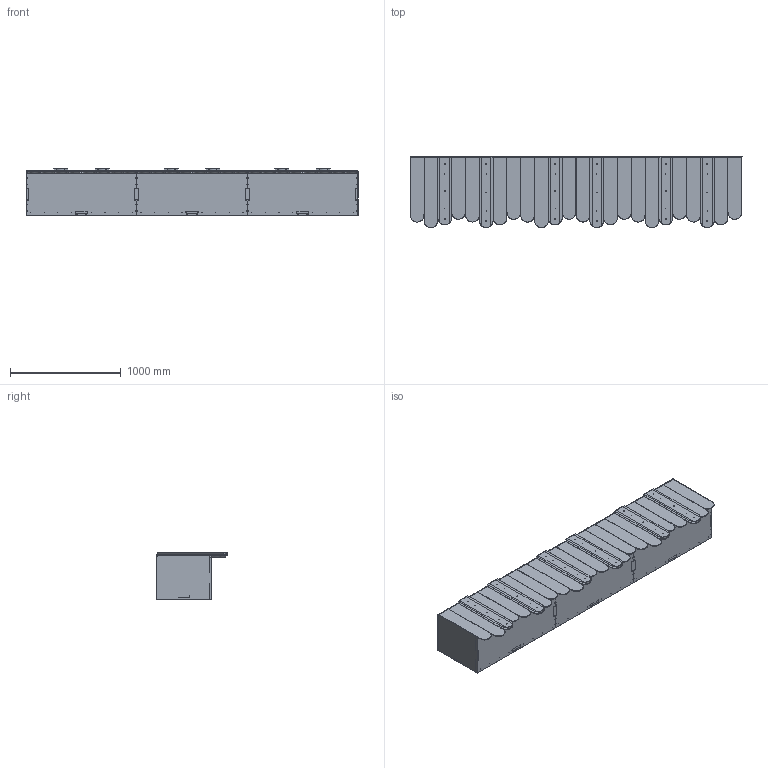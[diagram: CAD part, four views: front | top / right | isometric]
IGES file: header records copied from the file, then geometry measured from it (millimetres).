
Start section: SolidWorks IGES file using analytic representation for surfaces
Global section: file name: \\UTENTI\Dati Utenti\Tecnico\DC\2D - 3D per sito\3D\DeCastelli-3D-Xilo Console 300.igs; native system: SolidWorks 2022; preprocessor: SolidWorks 2022; author: filippo; date: 240724.135748; units: millimetre
Bounding box: 2994.04 x 642.25 x 421 mm (x, y, z)
Surface area: 22012009.6 mm2 (no closed solid volume)
Topology: 0 solids, 0 shells, 781 faces, 21226 edges, 21226 vertices
Faces by surface type: revolution 400, bspline 381
